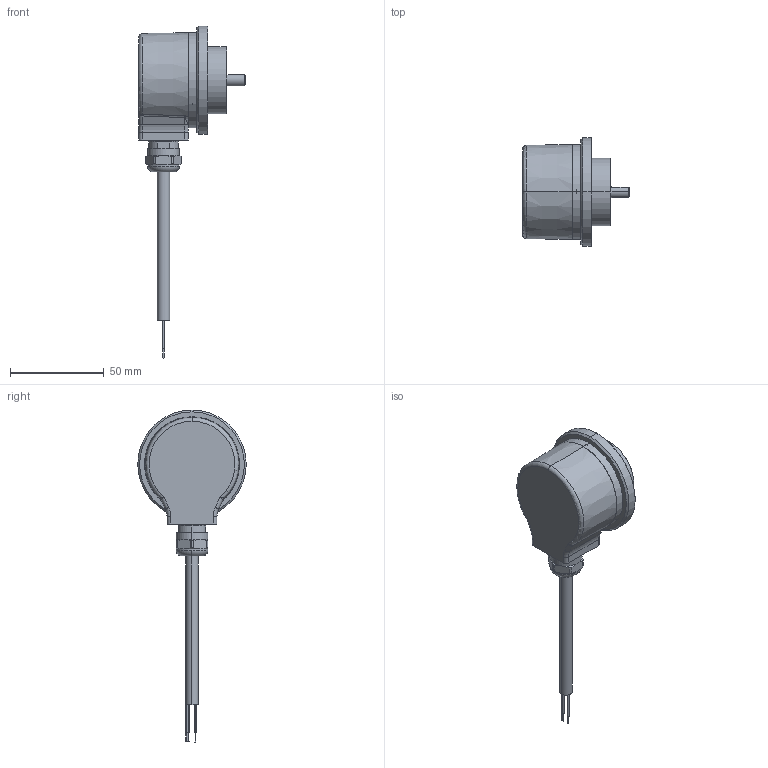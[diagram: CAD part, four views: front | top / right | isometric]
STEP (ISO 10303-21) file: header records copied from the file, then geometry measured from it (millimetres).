
FILE_DESCRIPTION (( 'STEP AP203' ), '1' );
FILE_NAME ('8.5000.71X2.XXXX.STEP', '2017-04-05T06:55:17', ( '' ), ( '' ), 'SwSTEP 2.0', 'SolidWorks 2017', '' );
FILE_SCHEMA (( 'CONFIG_CONTROL_DESIGN' ));
Length unit declared in the file: millimetre
Products named in the file (1): 8.5000.71X2.XXXX
Bounding box: 57 x 58 x 177.5 mm (x, y, z)
Volume: 55045.3 mm3; surface area: 34694.8 mm2
Topology: 13 solids, 13 shells, 363 faces, 787 edges, 468 vertices
Faces by surface type: cylinder 132, cone 89, plane 89, torus 45, bspline 8
Entity records: 10386 total; most frequent: CARTESIAN_POINT 2309, DIRECTION 1841, ORIENTED_EDGE 1538, AXIS2_PLACEMENT_3D 780, EDGE_CURVE 769, VERTEX_POINT 468, CIRCLE 424, EDGE_LOOP 409
